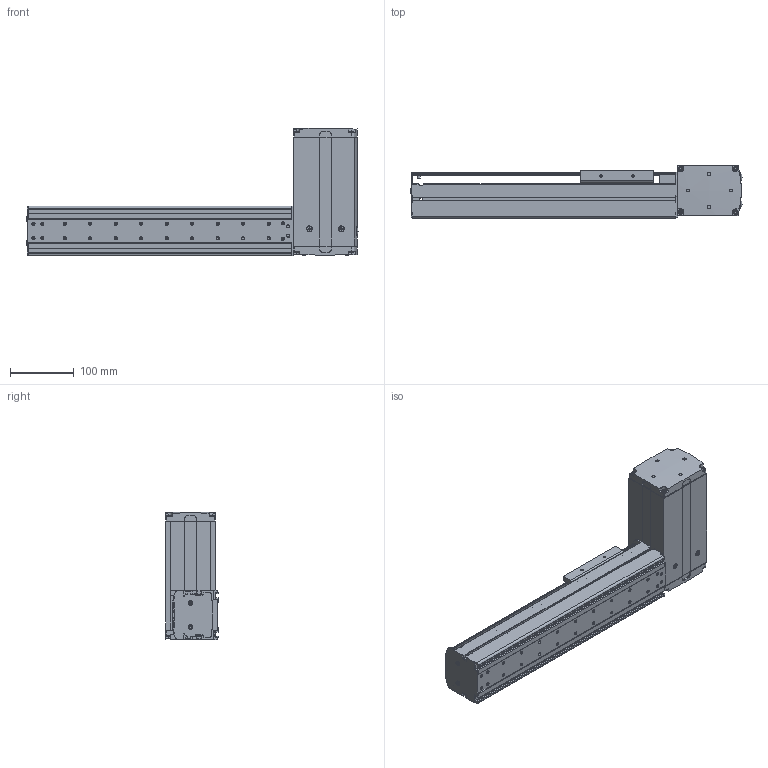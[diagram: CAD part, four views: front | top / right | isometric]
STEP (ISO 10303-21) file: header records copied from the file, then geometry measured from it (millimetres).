
FILE_DESCRIPTION((''),'2;1');
FILE_NAME('BE10_-BR-M_N-20_IGS_PRT','2017-06-18T',(' '),(''),'PRO/ENGINEER BY PARAMETRIC TECHNOLOGY CORPORATION, 2015030','PRO/ENGINEER BY PARAMETRIC TECHNOLOGY CORPORATION, 2015030','');
FILE_SCHEMA(('CONFIG_CONTROL_DESIGN'));
Products named in the file (1): BE10_-BR-M_N-20_IGS_PRT
Bounding box: 520.8 x 82.5 x 200.5 mm (x, y, z)
Volume: 845932.2 mm3; surface area: 590844.5 mm2
Topology: 3 solids, 112 shells, 1956 faces, 5329 edges, 3487 vertices
Faces by surface type: plane 967, cylinder 818, cone 111, sphere 30, torus 27, bspline 3
Entity records: 63328 total; most frequent: CARTESIAN_POINT 12923, DIRECTION 10672, ORIENTED_EDGE 10174, EDGE_CURVE 5267, AXIS2_PLACEMENT_3D 3767, VERTEX_POINT 3487, VECTOR 3138, LINE 3138
